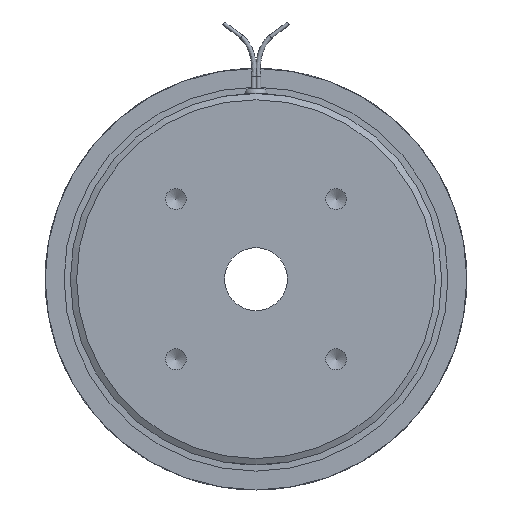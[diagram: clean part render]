
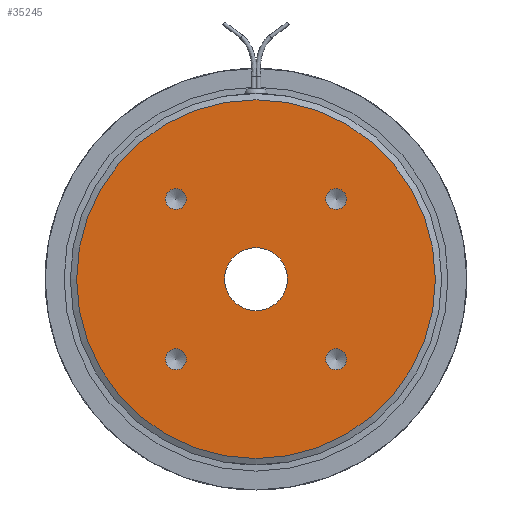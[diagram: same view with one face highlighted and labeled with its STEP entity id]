
A CAD part, left-side view. The second image highlights one B-rep face of the part: STEP entity #35245.
In plain terms, the highlighted planar face has unit normal (-1, 0, 0).
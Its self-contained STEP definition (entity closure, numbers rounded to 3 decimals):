
#1723=FACE_BOUND('',#7123,.T.);
#1724=FACE_BOUND('',#7124,.T.);
#1725=FACE_BOUND('',#7125,.T.);
#1726=FACE_BOUND('',#7126,.T.);
#1727=FACE_BOUND('',#7127,.T.);
#2975=CIRCLE('',#38005,3.324);
#2977=CIRCLE('',#38009,3.324);
#2979=CIRCLE('',#38013,3.324);
#2981=CIRCLE('',#38017,3.324);
#3009=CIRCLE('',#38052,10.);
#3010=CIRCLE('',#38054,57.);
#3827=PLANE('',#38053);
#5138=FACE_OUTER_BOUND('',#7122,.T.);
#7122=EDGE_LOOP('',(#29526));
#7123=EDGE_LOOP('',(#29527));
#7124=EDGE_LOOP('',(#29528));
#7125=EDGE_LOOP('',(#29529));
#7126=EDGE_LOOP('',(#29530));
#7127=EDGE_LOOP('',(#29531));
#16014=VERTEX_POINT('',#68629);
#16017=VERTEX_POINT('',#68638);
#16020=VERTEX_POINT('',#68647);
#16023=VERTEX_POINT('',#68656);
#16056=VERTEX_POINT('',#68760);
#16057=VERTEX_POINT('',#68764);
#20716=EDGE_CURVE('',#16014,#16014,#2975,.T.);
#20720=EDGE_CURVE('',#16017,#16017,#2977,.T.);
#20724=EDGE_CURVE('',#16020,#16020,#2979,.T.);
#20728=EDGE_CURVE('',#16023,#16023,#2981,.T.);
#20776=EDGE_CURVE('',#16056,#16056,#3009,.T.);
#20777=EDGE_CURVE('',#16057,#16057,#3010,.T.);
#29526=ORIENTED_EDGE('',*,*,#20777,.F.);
#29527=ORIENTED_EDGE('',*,*,#20716,.T.);
#29528=ORIENTED_EDGE('',*,*,#20720,.T.);
#29529=ORIENTED_EDGE('',*,*,#20724,.T.);
#29530=ORIENTED_EDGE('',*,*,#20728,.T.);
#29531=ORIENTED_EDGE('',*,*,#20776,.T.);
#35245=ADVANCED_FACE('',(#5138,#1723,#1724,#1725,#1726,#1727),#3827,.T.);
#38005=AXIS2_PLACEMENT_3D('',#68630,#44569,#44570);
#38009=AXIS2_PLACEMENT_3D('',#68639,#44579,#44580);
#38013=AXIS2_PLACEMENT_3D('',#68648,#44589,#44590);
#38017=AXIS2_PLACEMENT_3D('',#68657,#44599,#44600);
#38052=AXIS2_PLACEMENT_3D('',#68762,#44688,#44689);
#38053=AXIS2_PLACEMENT_3D('',#68763,#44690,#44691);
#38054=AXIS2_PLACEMENT_3D('',#68765,#44692,#44693);
#44569=DIRECTION('center_axis',(1.,0.,0.));
#44570=DIRECTION('ref_axis',(0.,0.,
1.));
#44579=DIRECTION('center_axis',(1.,0.,0.));
#44580=DIRECTION('ref_axis',(0.,0.,
1.));
#44589=DIRECTION('center_axis',(1.,0.,0.));
#44590=DIRECTION('ref_axis',(0.,0.,
1.));
#44599=DIRECTION('center_axis',(1.,0.,0.));
#44600=DIRECTION('ref_axis',(0.,0.,
1.));
#44688=DIRECTION('center_axis',(1.,0.,0.));
#44689=DIRECTION('ref_axis',(0.,0.,
-1.));
#44690=DIRECTION('center_axis',(-1.,0.,0.));
#44691=DIRECTION('ref_axis',(0.,0.,
1.));
#44692=DIRECTION('center_axis',(1.,0.,0.));
#44693=DIRECTION('ref_axis',(0.,0.,
-1.));
#68629=CARTESIAN_POINT('',(-15.5,-25.456,22.132));
#68630=CARTESIAN_POINT('Origin',(-15.5,-25.456,25.456));
#68638=CARTESIAN_POINT('',(-15.5,25.456,-28.779));
#68639=CARTESIAN_POINT('Origin',(-15.5,25.456,-25.456));
#68647=CARTESIAN_POINT('',(-15.5,-25.456,-28.779));
#68648=CARTESIAN_POINT('Origin',(-15.5,-25.456,-25.456));
#68656=CARTESIAN_POINT('',(-15.5,25.456,22.132));
#68657=CARTESIAN_POINT('Origin',(-15.5,25.456,25.456));
#68760=CARTESIAN_POINT('',(-15.5,-10.,0.));
#68762=CARTESIAN_POINT('Origin',(-15.5,0.,0.));
#68763=CARTESIAN_POINT('Origin',(-15.5,57.,0.));
#68764=CARTESIAN_POINT('',(-15.5,-57.,0.));
#68765=CARTESIAN_POINT('Origin',(-15.5,0.,0.));
